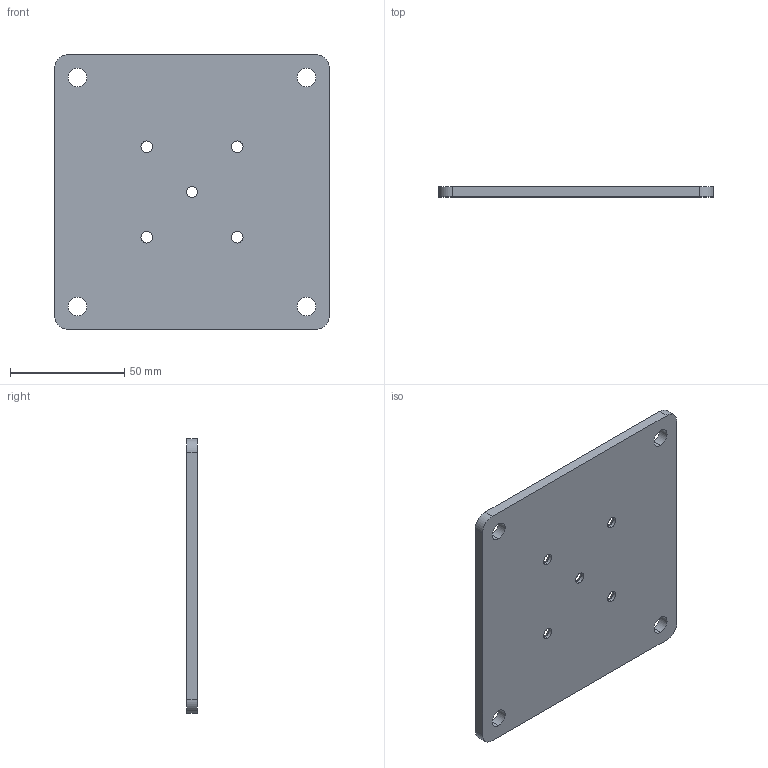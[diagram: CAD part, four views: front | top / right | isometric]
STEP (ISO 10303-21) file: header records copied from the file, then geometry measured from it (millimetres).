
FILE_DESCRIPTION (( 'STEP AP214' ), '1' );
FILE_NAME ('TablePlate120B.STEP', '2022-08-19T00:36:45', ( '' ), ( '' ), 'SwSTEP 2.0', 'SolidWorks 2021', '' );
FILE_SCHEMA (( 'AUTOMOTIVE_DESIGN' ));
Length unit declared in the file: millimetre
Products named in the file (1): TablePlate120B
Bounding box: 120 x 4.5 x 120 mm (x, y, z)
Volume: 62819.6 mm3; surface area: 30979.7 mm2
Topology: 1 solids, 1 shells, 38 faces, 98 edges, 62 vertices
Faces by surface type: cylinder 22, cone 10, plane 6
Entity records: 1246 total; most frequent: DIRECTION 230, CARTESIAN_POINT 199, ORIENTED_EDGE 196, EDGE_CURVE 98, AXIS2_PLACEMENT_3D 93, VERTEX_POINT 62, EDGE_LOOP 56, CIRCLE 54
